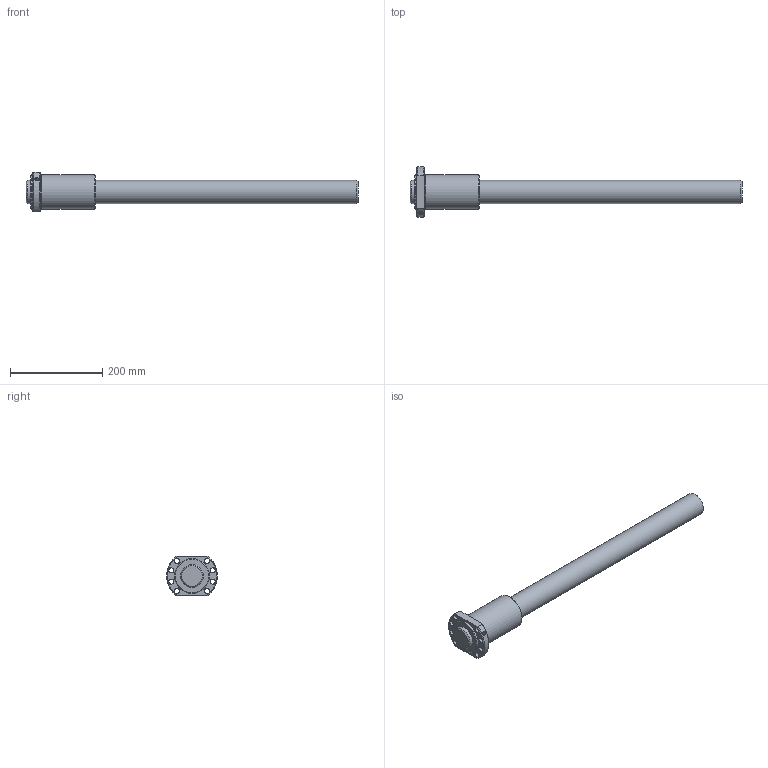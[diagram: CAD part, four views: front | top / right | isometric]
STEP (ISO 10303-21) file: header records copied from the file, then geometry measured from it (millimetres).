
FILE_DESCRIPTION(/* description */ ('STEP AP214'),/* implementation_level */ '2;1');
FILE_NAME(/* name */ 'EPB5010-8RRG0+720LC0(560G000)_rev',/* time_stamp */ '2023-08-03T13:30:55+02:00',/* author */ ('License CC BY-ND 4.0'),/* organization */ ('CADENAS'),/* preprocessor_version */ 'ST-DEVELOPER v19.3',/* originating_system */ 'PARTsolutions',/* authorisation */ ' ');
FILE_SCHEMA (('AUTOMOTIVE_DESIGN {1 0 10303 214 3 1 1}'));
Length unit declared in the file: millimetre
Products named in the file (3): EPB5010-8RRG0+720LC0(560G000)_rev; EPB 5010-8RR Nut1; EPB 5010-85600 Shaft1
Assembly tree (2 placements, depth 2):
  EPB5010-8RRG0+720LC0(560G000)_rev
    EPB 5010-8RR Nut1
    EPB 5010-85600 Shaft1
Bounding box: 720 x 109.65 x 85 mm (x, y, z)
Volume: 1802885.8 mm3; surface area: 189446.3 mm2
Topology: 2 solids, 2 shells, 34 faces, 77 edges, 50 vertices
Faces by surface type: cylinder 16, cone 9, plane 9
Full cylindrical faces by diameter (mm): 6.647 x1, 11 x8, 50 x2, 70.5 x1, 75 x2
Entity records: 1003 total; most frequent: CARTESIAN_POINT 187, DIRECTION 160, ORIENTED_EDGE 114, EDGE_LOOP 76, FACE_BOUND 76, AXIS2_PLACEMENT_3D 76, EDGE_CURVE 57, VERTEX_POINT 49
